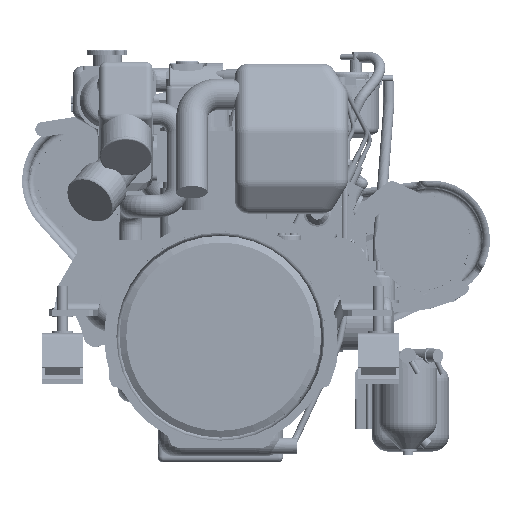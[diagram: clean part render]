
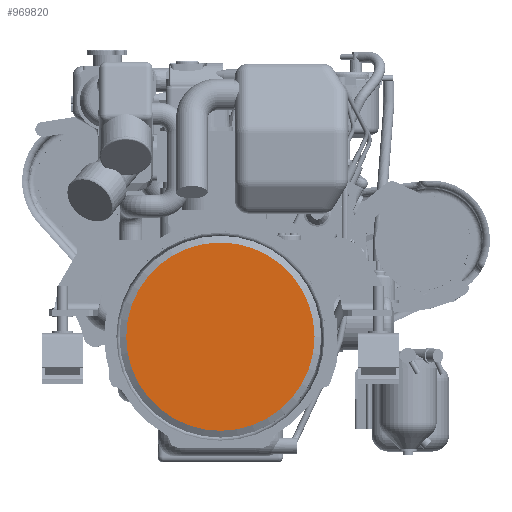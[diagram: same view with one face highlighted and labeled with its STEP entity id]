
A CAD part, top view. The second image highlights one B-rep face of the part: STEP entity #969820.
In plain terms, the highlighted planar face has unit normal (0, 0, 1).
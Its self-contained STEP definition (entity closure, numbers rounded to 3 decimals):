
#969390=CARTESIAN_POINT('',(140.,0.,157.));
#969400=VERTEX_POINT('',#969390);
#969580=CARTESIAN_POINT('',(-140.,0.,157.
));
#969590=VERTEX_POINT('',#969580);
#969620=CARTESIAN_POINT('',(0.,0.,
157.));
#969630=DIRECTION('',(0.,0.,1.));
#969640=DIRECTION('',(-1.,0.,0.));
#969650=AXIS2_PLACEMENT_3D('',#969620,#969630,#969640);
#969660=CIRCLE('',#969650,140.);
#969670=EDGE_CURVE('',#969590,#969400,#969660,.T.);
#969720=CARTESIAN_POINT('',(-140.715,140.5,157.));
#969730=DIRECTION('',(0.,0.,1.));
#969740=DIRECTION('',(1.,0.,0.));
#969750=AXIS2_PLACEMENT_3D('',#969720,#969730,#969740);
#969760=PLANE('',#969750);
#969770=EDGE_CURVE('',#969400,#969590,#969660,.T.);
#969780=ORIENTED_EDGE('',*,*,#969770,.T.);
#969790=ORIENTED_EDGE('',*,*,#969670,.T.);
#969800=EDGE_LOOP('',(#969790,#969780));
#969810=FACE_OUTER_BOUND('',#969800,.T.);
#969820=ADVANCED_FACE('',(#969810),#969760,.T.);
